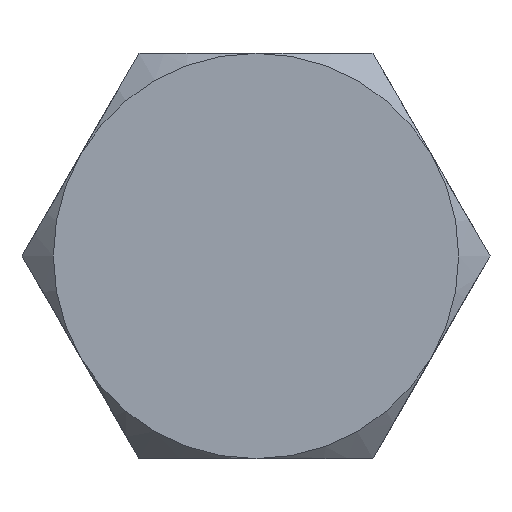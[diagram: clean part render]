
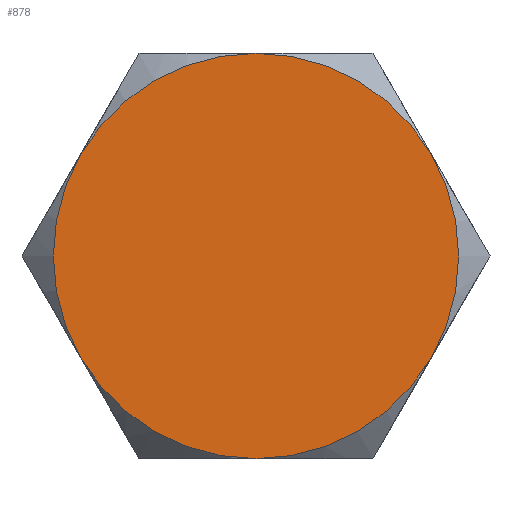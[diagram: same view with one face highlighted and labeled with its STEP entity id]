
A CAD part, front view. The second image highlights one B-rep face of the part: STEP entity #878.
In plain terms, the highlighted planar face has unit normal (0, -1, 0).
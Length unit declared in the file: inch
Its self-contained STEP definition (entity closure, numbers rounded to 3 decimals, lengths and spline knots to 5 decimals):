
#67=PLANE('',#1010);
#189=FACE_OUTER_BOUND('',#247,.T.);
#247=EDGE_LOOP('',(#738,#739,#740,#741,#742,#743));
#305=CIRCLE('',#999,0.625);
#306=CIRCLE('',#1001,0.625);
#307=CIRCLE('',#1003,0.625);
#308=CIRCLE('',#1005,0.625);
#309=CIRCLE('',#1007,0.625);
#310=CIRCLE('',#1009,0.625);
#389=VERTEX_POINT('',#1563);
#394=VERTEX_POINT('',#1583);
#397=VERTEX_POINT('',#1600);
#399=VERTEX_POINT('',#1618);
#402=VERTEX_POINT('',#1635);
#404=VERTEX_POINT('',#1651);
#518=EDGE_CURVE('',#389,#397,#305,.T.);
#519=EDGE_CURVE('',#404,#389,#306,.T.);
#520=EDGE_CURVE('',#402,#404,#307,.T.);
#521=EDGE_CURVE('',#399,#402,#308,.T.);
#522=EDGE_CURVE('',#394,#399,#309,.T.);
#523=EDGE_CURVE('',#397,#394,#310,.T.);
#738=ORIENTED_EDGE('',*,*,#522,.F.);
#739=ORIENTED_EDGE('',*,*,#523,.F.);
#740=ORIENTED_EDGE('',*,*,#518,.F.);
#741=ORIENTED_EDGE('',*,*,#519,.F.);
#742=ORIENTED_EDGE('',*,*,#520,.F.);
#743=ORIENTED_EDGE('',*,*,#521,.F.);
#878=ADVANCED_FACE('',(#189),#67,.T.);
#999=AXIS2_PLACEMENT_3D('',#1665,#1211,#1212);
#1001=AXIS2_PLACEMENT_3D('',#1667,#1215,#1216);
#1003=AXIS2_PLACEMENT_3D('',#1669,#1219,#1220);
#1005=AXIS2_PLACEMENT_3D('',#1671,#1223,#1224);
#1007=AXIS2_PLACEMENT_3D('',#1673,#1227,#1228);
#1009=AXIS2_PLACEMENT_3D('',#1675,#1231,#1232);
#1010=AXIS2_PLACEMENT_3D('',#1676,#1233,#1234);
#1211=DIRECTION('center_axis',(0.,1.,0.));
#1212=DIRECTION('ref_axis',(0.,0.,1.));
#1215=DIRECTION('center_axis',(0.,1.,0.));
#1216=DIRECTION('ref_axis',(0.,0.,1.));
#1219=DIRECTION('center_axis',(0.,1.,0.));
#1220=DIRECTION('ref_axis',(0.,0.,1.));
#1223=DIRECTION('center_axis',(0.,1.,0.));
#1224=DIRECTION('ref_axis',(0.,0.,1.));
#1227=DIRECTION('center_axis',(0.,1.,0.));
#1228=DIRECTION('ref_axis',(0.,0.,1.));
#1231=DIRECTION('center_axis',(0.,1.,0.));
#1232=DIRECTION('ref_axis',(0.,0.,1.));
#1233=DIRECTION('center_axis',(0.,-1.,0.));
#1234=DIRECTION('ref_axis',(0.,0.,-1.));
#1563=CARTESIAN_POINT('',(0.54127,0.,0.3125));
#1583=CARTESIAN_POINT('',(0.,0.,-0.625));
#1600=CARTESIAN_POINT('',(0.54127,0.,-0.3125));
#1618=CARTESIAN_POINT('',(-0.54127,0.,-0.3125));
#1635=CARTESIAN_POINT('',(-0.54127,0.,0.3125));
#1651=CARTESIAN_POINT('',(0.,0.,0.625));
#1665=CARTESIAN_POINT('Origin',(0.,0.,0.));
#1667=CARTESIAN_POINT('Origin',(0.,0.,0.));
#1669=CARTESIAN_POINT('Origin',(0.,0.,0.));
#1671=CARTESIAN_POINT('Origin',(0.,0.,0.));
#1673=CARTESIAN_POINT('Origin',(0.,0.,0.));
#1675=CARTESIAN_POINT('Origin',(0.,0.,0.));
#1676=CARTESIAN_POINT('Origin',(0.,0.,0.));
